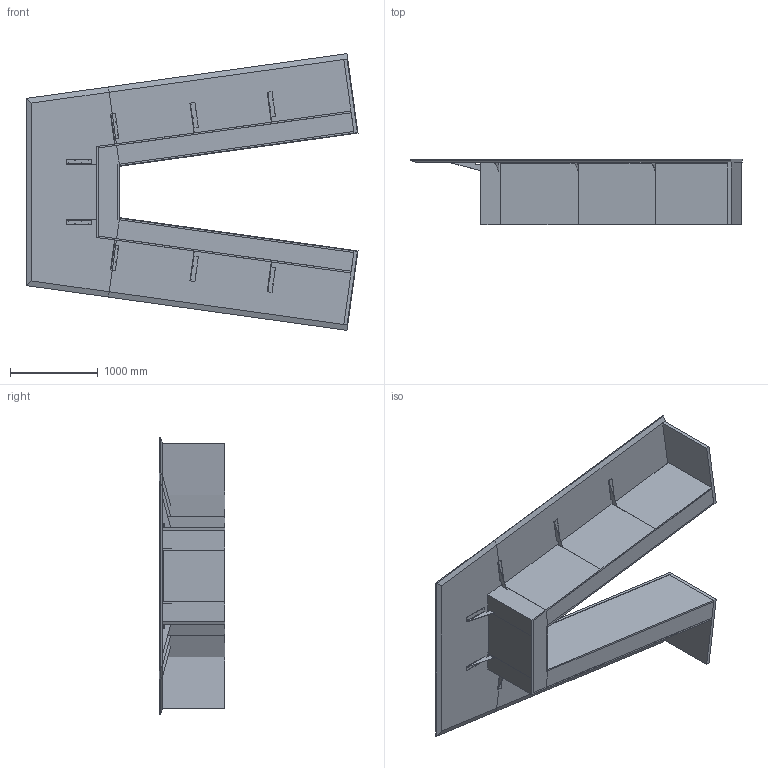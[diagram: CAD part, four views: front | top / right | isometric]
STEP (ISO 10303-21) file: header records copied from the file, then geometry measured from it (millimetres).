
FILE_DESCRIPTION(/* description */ ('','CAx-IF Rec.Pracs.---Representation and Presentation of Product Manufacturing Information (PMI)---4.0---2014-10-13'),/* implementation_level */ '2;1');
FILE_NAME(/* name */ 'TABLE_VIEWLINE 3.stp',/* time_stamp */ '2024-12-07T15:34:10-05:00',/* author */ ('mbowman'),/* organization */ (''),/* preprocessor_version */ 'ST-DEVELOPER v19.2',/* originating_system */ 'Autodesk Inventor 2023',/* authorisation */ '');
FILE_SCHEMA (('AP242_MANAGED_MODEL_BASED_3D_ENGINEERING_MIM_LF { 1 0 10303 442 1 1 4 }'));
Length unit declared in the file: inch
Products named in the file (65): VIEWLINE^TABLE 3_3 PC V SHAPE-ASSEMBLY; VIEWLINE^TABLE 3_HEAD TOP SECTION-ASSEMBLY; VIEWLINE^TABLE 3_HEAD TOP SECTION-WORKSURFACE; VIEWLINE^TABLE 3_HEAD TOP SECTION-BASE FRONT LEFT; VIEWLINE^TABLE 3_HEAD TOP SECTION-BASE FRONT CENTER; VIEWLINE^TABLE 3_HEAD TOP SECTION-BASE FRONT RIGHT; VIEWLINE^TABLE 3_HEAD TOP SECTION-BASE TOP; VIEWLINE^TABLE 3_HEAD TOP SECTION-BASE BOTTOM; VIEWLINE^TABLE 3_HEAD TOP SECTION-BASE LEFT FRONT RIB; VIEWLINE^TABLE 3_HEAD TOP SECTION-BASE RIGHT FRONT RIB; VIEWLINE^TABLE 3_HEAD TOP SECTION-BASE LEFT RIB; VIEWLINE^TABLE 3_HEAD TOP SECTION-BASE RIGHT RIB; VIEWLINE^TABLE 3_HEAD TOP SECTION-BASE LEFT OUT END; VIEWLINE^TABLE 3_HEAD TOP SECTION-BASE RIGHT OUT END; VIEWLINE^TABLE 3_HEAD TOP SECTION-BASE LEFT IN END; VIEWLINE^TABLE 3_HEAD TOP SECTION-BASE RIGHT IN END; VIEWLINE^TABLE 3_HEAD TOP SECTION-BASE CENTER ACCESS PANEL; _ASSEM_HINGE; _ASSEM_HINGE_1; VIEWLINE^TABLE 3_LEFT TOP SECTION-ASSEMBLY; VIEWLINE^TABLE 3_LEFT TOP SECTION-WORKSURFACE; VIEWLINE^TABLE 3_LEFT TOP SECTION-BASE RIGHT END PANEL; VIEWLINE^TABLE 3_LEFT TOP SECTION-BASE FRONT PANEL; VIEWLINE^TABLE 3_LEFT TOP SECTION-BASE TOP; VIEWLINE^TABLE 3_LEFT TOP SECTION-BASE BOTTOM; VIEWLINE^TABLE 3_LEFT TOP SECTION-BASE RIGHT END RIB; VIEWLINE^TABLE 3_LEFT TOP SECTION-BASE LEFT END RIB; VIEWLINE^TABLE 3_LEFT TOP SECTION-BASE LEFT CENTER RIB; VIEWLINE^TABLE 3_LEFT TOP SECTION-BASE RIGHT CENTER RIB; VIEWLINE^TABLE 3_LEFT TOP SECTION-BASE RIGHT ACCESS PANEL; VIEWLINE^TABLE 3_LEFT TOP SECTION-BASE CENTER ACCESS PANEL; VIEWLINE^TABLE 3_LEFT TOP SECTION-BASE LEFT ACCESS PANEL; _ASSEM_HINGE_2; _ASSEM_HINGE_3; _ASSEM_HINGE_4; _ASSEM_HINGE_5; CANTILEVER BRACKET H-496_MIR1; VIEWLINE^TABLE 3_RIGHT TOP SECTION-ASSEMBLY; VIEWLINE^TABLE 3_RIGHT TOP SECTION-BASE LEFT END PANEL; VIEWLINE^TABLE 3_RIGHT TOP SECTION-BASE FRONT PANEL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
Assembly tree (187 placements, depth 5):
  VIEWLINE^TABLE 3_3 PC V SHAPE-ASSEMBLY
    VIEWLINE^TABLE 3_HEAD TOP SECTION-ASSEMBLY
      VIEWLINE^TABLE 3_HEAD TOP SECTION-WORKSURFACE
      VIEWLINE^TABLE 3_HEAD TOP SECTION-BASE FRONT LEFT
      VIEWLINE^TABLE 3_HEAD TOP SECTION-BASE FRONT CENTER
      VIEWLINE^TABLE 3_HEAD TOP SECTION-BASE FRONT RIGHT
      VIEWLINE^TABLE 3_HEAD TOP SECTION-BASE TOP
      VIEWLINE^TABLE 3_HEAD TOP SECTION-BASE BOTTOM
      VIEWLINE^TABLE 3_HEAD TOP SECTION-BASE LEFT FRONT RIB
      VIEWLINE^TABLE 3_HEAD TOP SECTION-BASE RIGHT FRONT RIB
      VIEWLINE^TABLE 3_HEAD TOP SECTION-BASE LEFT RIB
      VIEWLINE^TABLE 3_HEAD TOP SECTION-BASE RIGHT RIB
      VIEWLINE^TABLE 3_HEAD TOP SECTION-BASE LEFT OUT END
      VIEWLINE^TABLE 3_HEAD TOP SECTION-BASE RIGHT OUT END
      VIEWLINE^TABLE 3_HEAD TOP SECTION-BASE LEFT IN END
      VIEWLINE^TABLE 3_HEAD TOP SECTION-BASE RIGHT IN END
      VIEWLINE^TABLE 3_HEAD TOP SECTION-BASE CENTER ACCESS PANEL
      _ASSEM_HINGE
        _SUPPORT  x2
        _TIGE_3  x2
        _ARM  x4
        _TIGE_1  x2
        _TIGE_2
      _ASSEM_HINGE_1
        _SUPPORT  x2
        _TIGE_3  x2
        _ARM  x4
        _TIGE_1  x2
        _TIGE_2
      ECA INTERACT+ UT
        ECA INTERACT+ UT_1
        8965-6403_8965-6408 no wires  x5
          025-0043_025-0043
      VIEWLINE^TABLE 3_3 PC V SHAPE-POWER LID
      CANTILEVER BRACKET H-496_MIR1  x2
      CANTILEVER BRACKET H-496  x2
    VIEWLINE^TABLE 3_LEFT TOP SECTION-ASSEMBLY
      VIEWLINE^TABLE 3_LEFT TOP SECTION-WORKSURFACE
      VIEWLINE^TABLE 3_LEFT TOP SECTION-BASE RIGHT END PANEL
      VIEWLINE^TABLE 3_LEFT TOP SECTION-BASE FRONT PANEL
      VIEWLINE^TABLE 3_LEFT TOP SECTION-BASE TOP
      VIEWLINE^TABLE 3_LEFT TOP SECTION-BASE BOTTOM
      VIEWLINE^TABLE 3_LEFT TOP SECTION-BASE RIGHT END RIB
      VIEWLINE^TABLE 3_LEFT TOP SECTION-BASE LEFT END RIB
      VIEWLINE^TABLE 3_LEFT TOP SECTION-BASE LEFT CENTER RIB
      VIEWLINE^TABLE 3_LEFT TOP SECTION-BASE RIGHT CENTER RIB
      VIEWLINE^TABLE 3_LEFT TOP SECTION-BASE RIGHT ACCESS PANEL
      VIEWLINE^TABLE 3_LEFT TOP SECTION-BASE CENTER ACCESS PANEL
      VIEWLINE^TABLE 3_LEFT TOP SECTION-BASE LEFT ACCESS PANEL
      _ASSEM_HINGE_2
        _SUPPORT  x2
        _TIGE_3  x2
        _ARM  x4
        _TIGE_1  x2
        _TIGE_2
      _ASSEM_HINGE_3
        _SUPPORT  x2
        _TIGE_3  x2
        _ARM  x4
        _TIGE_1  x2
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Bounding box: 3783.76 x 742.95 x 3152.66 mm (x, y, z)
Volume: 540601892.8 mm3; surface area: 48816864.5 mm2
Topology: 197 solids, 197 shells, 11935 faces, 32656 edges, 21100 vertices
Faces by surface type: plane 6884, cylinder 4366, torus 440, cone 165, sphere 80
Full cylindrical faces by diameter (mm): 1 x210, 1.1 x20, 4.762 x72, 8 x5, 8.007 x15, 9.525 x5
Entity records: 44969 total; most frequent: CARTESIAN_POINT 10287, DIRECTION 7069, ORIENTED_EDGE 5600, EDGE_CURVE 2800, AXIS2_PLACEMENT_3D 2453, LINE 2163, VECTOR 2163, VERTEX_POINT 1832
